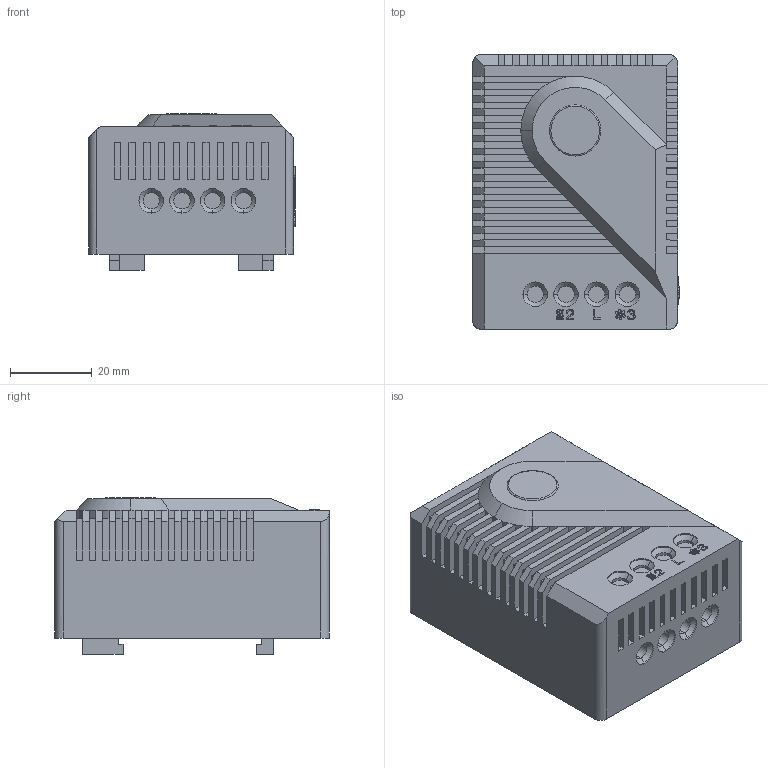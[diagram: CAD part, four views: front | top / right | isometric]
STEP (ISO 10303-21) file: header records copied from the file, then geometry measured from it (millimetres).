
FILE_DESCRIPTION (( 'STEP AP214' ), '1' );
FILE_NAME ('MFR_01230_eplan_10_2012.STEP', '2012-11-15T14:29:01', ( 'Nutzer' ), ( '' ), 'SwSTEP 2.0', 'SolidWorks 2012', '' );
FILE_SCHEMA (( 'AUTOMOTIVE_DESIGN' ));
Length unit declared in the file: millimetre
Products named in the file (1): MFR_01230_eplan_10_2012
Bounding box: 50.4 x 67 x 38.3 mm (x, y, z)
Volume: 103692.7 mm3; surface area: 18711.5 mm2
Topology: 2 solids, 2 shells, 778 faces, 2105 edges, 1369 vertices
Faces by surface type: plane 499, bspline 213, cylinder 46, cone 18, torus 2
Entity records: 25189 total; most frequent: CARTESIAN_POINT 7019, ORIENTED_EDGE 4210, DIRECTION 2910, EDGE_CURVE 2105, VECTOR 1566, LINE 1566, VERTEX_POINT 1369, EDGE_LOOP 816
